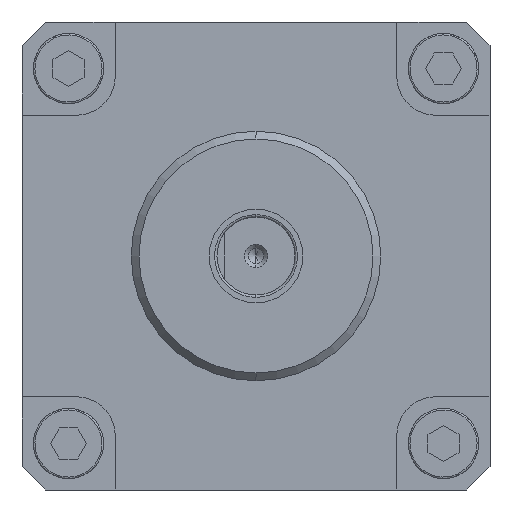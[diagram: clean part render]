
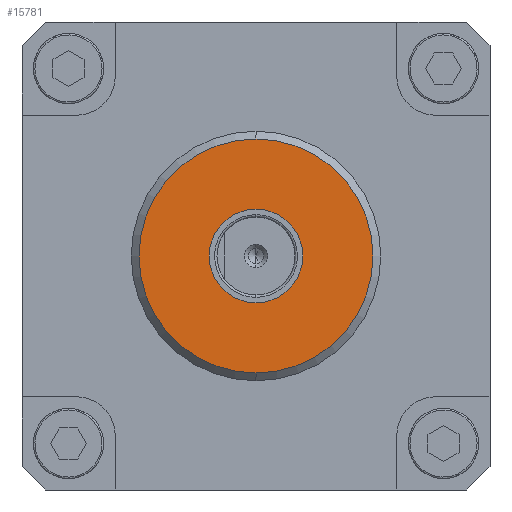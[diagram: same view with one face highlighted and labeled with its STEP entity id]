
A CAD part, left-side view. The second image highlights one B-rep face of the part: STEP entity #15781.
In plain terms, the highlighted planar face has unit normal (-1, 0, 0).
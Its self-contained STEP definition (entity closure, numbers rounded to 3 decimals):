
#675 = DIRECTION ( 'NONE',  ( -1., 0., 0. ) ) ;
#1875 = VERTEX_POINT ( 'NONE', #10092 ) ;
#2184 = DIRECTION ( 'NONE',  ( 1., 0., 0. ) ) ;
#2401 = CARTESIAN_POINT ( 'NONE',  ( -2.6, 0., 0. ) ) ;
#2771 = CARTESIAN_POINT ( 'NONE',  ( -2.6, 0., 0. ) ) ;
#3552 = AXIS2_PLACEMENT_3D ( 'NONE', #10729, #675, #12408 ) ;
#3959 = FACE_OUTER_BOUND ( 'NONE', #10641, .T. ) ;
#4099 = DIRECTION ( 'NONE',  ( 0., 0., 1. ) ) ;
#4475 = DIRECTION ( 'NONE',  ( 0., 0., 1. ) ) ;
#4637 = CARTESIAN_POINT ( 'NONE',  ( -2.6, 0., -7.5 ) ) ;
#6812 = ORIENTED_EDGE ( 'NONE', *, *, #19218, .F. ) ;
#7283 = CARTESIAN_POINT ( 'NONE',  ( -2.6, 0., 7.5 ) ) ;
#7983 = CARTESIAN_POINT ( 'NONE',  ( -2.6, 0., 0. ) ) ;
#8147 = AXIS2_PLACEMENT_3D ( 'NONE', #2401, #14152, #4099 ) ;
#9685 = DIRECTION ( 'NONE',  ( 0., 0., -1. ) ) ;
#9855 = CIRCLE ( 'NONE', #8147, 3. ) ;
#10092 = CARTESIAN_POINT ( 'NONE',  ( -2.6, 0., -3. ) ) ;
#10562 = CARTESIAN_POINT ( 'NONE',  ( -2.6, 8., 0. ) ) ;
#10641 = EDGE_LOOP ( 'NONE', ( #14240, #20462 ) ) ;
#10729 = CARTESIAN_POINT ( 'NONE',  ( -2.6, 0., 0. ) ) ;
#10748 = VERTEX_POINT ( 'NONE', #4637 ) ;
#11060 = CIRCLE ( 'NONE', #15039, 3. ) ;
#11819 = FACE_BOUND ( 'NONE', #18085, .T. ) ;
#11898 = CIRCLE ( 'NONE', #17730, 7.5 ) ;
#12408 = DIRECTION ( 'NONE',  ( 0., 0., -1. ) ) ;
#12844 = AXIS2_PLACEMENT_3D ( 'NONE', #10562, #2184, #13920 ) ;
#13692 = CARTESIAN_POINT ( 'NONE',  ( -2.6, 0., 3. ) ) ;
#13851 = EDGE_CURVE ( 'NONE', #19988, #10748, #11898, .T. ) ;
#13920 = DIRECTION ( 'NONE',  ( 0., 0., -1. ) ) ;
#14152 = DIRECTION ( 'NONE',  ( -1., 0., 0. ) ) ;
#14240 = ORIENTED_EDGE ( 'NONE', *, *, #15265, .T. ) ;
#14529 = DIRECTION ( 'NONE',  ( -1., 0., 0. ) ) ;
#15039 = AXIS2_PLACEMENT_3D ( 'NONE', #2771, #14529, #4475 ) ;
#15265 = EDGE_CURVE ( 'NONE', #10748, #19988, #18403, .T. ) ;
#15781 = ADVANCED_FACE ( 'NONE', ( #3959, #11819 ), #17206, .F. ) ;
#17206 = PLANE ( 'NONE',  #12844 ) ;
#17730 = AXIS2_PLACEMENT_3D ( 'NONE', #7983, #19741, #9685 ) ;
#18085 = EDGE_LOOP ( 'NONE', ( #6812, #19370 ) ) ;
#18403 = CIRCLE ( 'NONE', #3552, 7.5 ) ;
#19218 = EDGE_CURVE ( 'NONE', #21026, #1875, #11060, .T. ) ;
#19370 = ORIENTED_EDGE ( 'NONE', *, *, #21144, .F. ) ;
#19741 = DIRECTION ( 'NONE',  ( -1., 0., 0. ) ) ;
#19988 = VERTEX_POINT ( 'NONE', #7283 ) ;
#20462 = ORIENTED_EDGE ( 'NONE', *, *, #13851, .T. ) ;
#21026 = VERTEX_POINT ( 'NONE', #13692 ) ;
#21144 = EDGE_CURVE ( 'NONE', #1875, #21026, #9855, .T. ) ;
